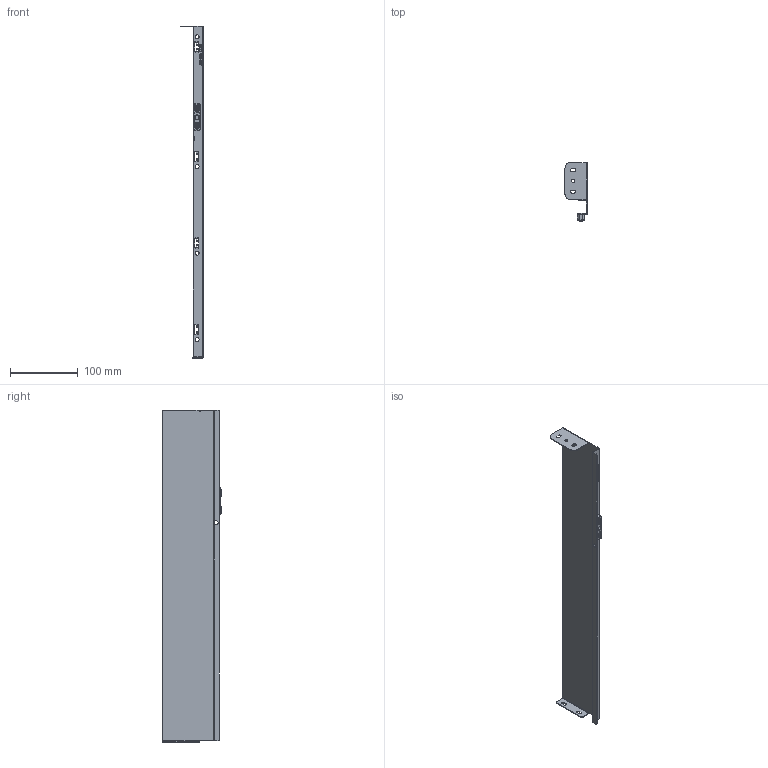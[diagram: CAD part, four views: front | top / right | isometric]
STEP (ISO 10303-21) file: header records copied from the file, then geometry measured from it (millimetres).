
FILE_DESCRIPTION (( 'STEP AP203' ), '1' );
FILE_NAME ('HL11500R.STEP', '2021-07-31T00:32:50', ( 'Users' ), ( 'Microsoft' ), 'SwSTEP 2.0', 'SolidWorks 2018', '' );
FILE_SCHEMA (( 'CONFIG_CONTROL_DESIGN' ));
Length unit declared in the file: millimetre
Products named in the file (1): HL11500R
Bounding box: 32.6 x 86.7 x 491.2 mm (x, y, z)
Volume: 62231.7 mm3; surface area: 102459.2 mm2
Topology: 1 solids, 1 shells, 429 faces, 1164 edges, 754 vertices
Faces by surface type: cylinder 163, plane 160, torus 55, bspline 49, cone 2
Entity records: 16328 total; most frequent: CARTESIAN_POINT 5350, ORIENTED_EDGE 2320, DIRECTION 2263, EDGE_CURVE 1160, AXIS2_PLACEMENT_3D 824, VERTEX_POINT 754, LINE 615, VECTOR 615
